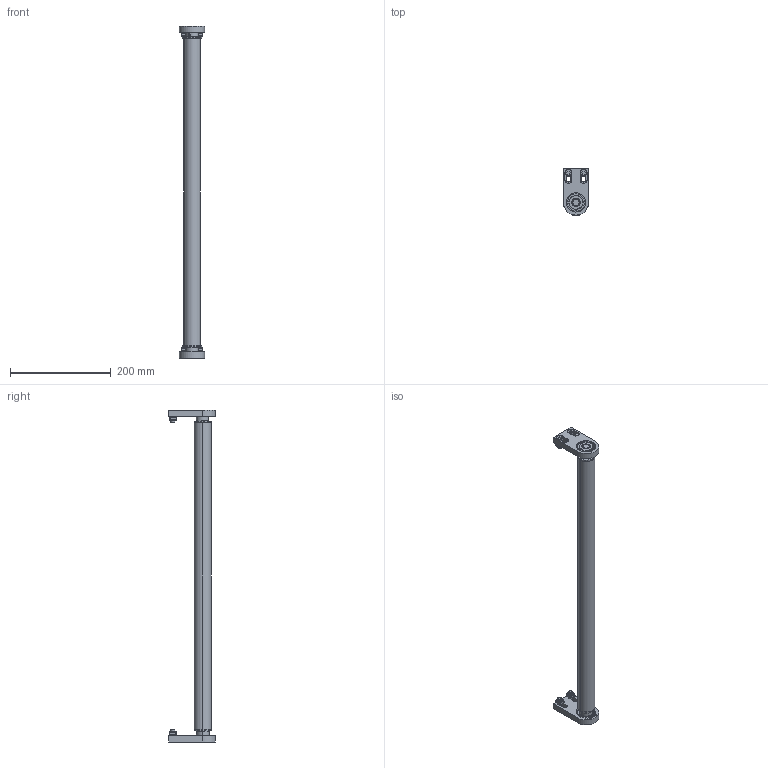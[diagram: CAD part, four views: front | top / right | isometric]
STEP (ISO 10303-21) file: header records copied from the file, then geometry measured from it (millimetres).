
FILE_DESCRIPTION (( 'STEP AP203' ), '1' );
FILE_NAME ('084.095.KSS.600.STEP', '2019-07-30T08:40:02', ( '' ), ( '' ), 'SwSTEP 2.0', 'SolidWorks 2018', '' );
FILE_SCHEMA (( 'CONFIG_CONTROL_DESIGN' ));
Length unit declared in the file: millimetre
Products named in the file (8): 084.301.000 VITI ALUSIC_084.301.003; 084.095.KSS.600; 084.302.000 DADI ALUSIC 13x13-1_084.302.004; 084.802.029-609; 084.802.014; 084.802.013-2; 084.802.017_084.802.017; 084.802.028
Assembly tree (17 placements, depth 2):
  084.095.KSS.600
    084.802.029-609
    084.301.000 VITI ALUSIC_084.301.003  x4
    084.302.000 DADI ALUSIC 13x13-1_084.302.004  x4
    084.802.017_084.802.017  x2
    084.802.028  x2
    084.802.014  x2
    084.802.013-2  x2
Bounding box: 50 x 92.5 x 659 mm (x, y, z)
Volume: 282928.6 mm3; surface area: 194983.6 mm2
Topology: 19 solids, 21 shells, 384 faces, 910 edges, 582 vertices
Faces by surface type: plane 142, cylinder 134, torus 52, cone 32, bspline 16, sphere 8
Entity records: 5980 total; most frequent: CARTESIAN_POINT 1263, DIRECTION 820, ORIENTED_EDGE 700, EDGE_CURVE 350, AXIS2_PLACEMENT_3D 339, VERTEX_POINT 224, EDGE_LOOP 182, CIRCLE 170
